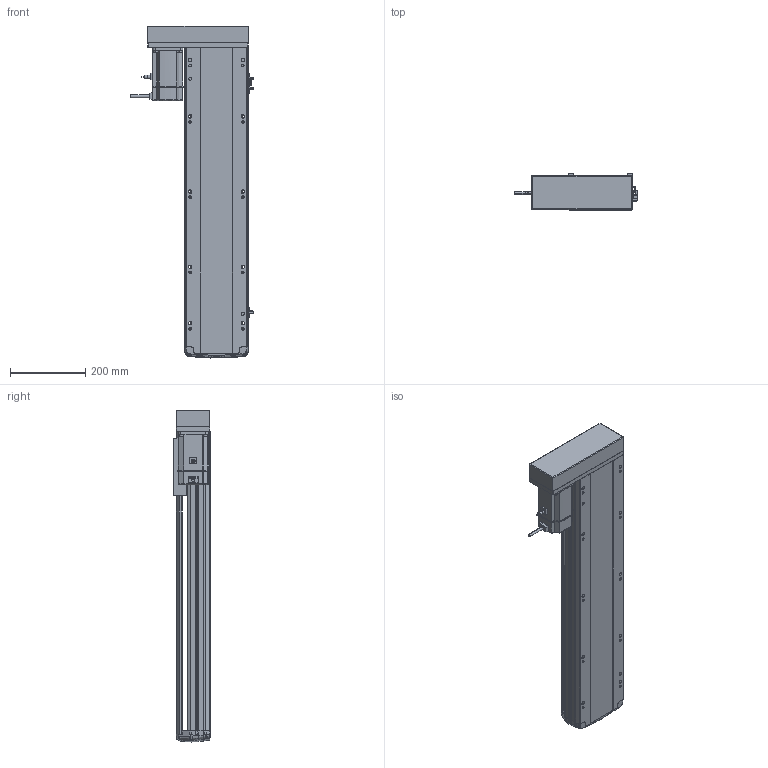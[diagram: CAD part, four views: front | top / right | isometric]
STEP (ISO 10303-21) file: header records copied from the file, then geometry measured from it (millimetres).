
FILE_DESCRIPTION (( 'STEP AP214' ), '1' );
FILE_NAME ('RTH17-XX-600-R-M75-C4.STEP', '2025-10-24T10:16:29', ( '' ), ( '' ), 'SwSTEP 2.0', 'SolidWorks 2018', '' );
FILE_SCHEMA (( 'AUTOMOTIVE_DESIGN' ));
Length unit declared in the file: millimetre
Products named in the file (10): N_RTH-L-012 感应片(外置)^RTH17-XX-XX-R-M75-C4（方程式）; N_RTH17-L-008-P75电机安装板左转折^RTH17-XX-XX-R-M75-C4（方程式）; N_M75^RTH17-XX-XX-R-M75-C4（方程式）; RTH17-XX-600-R-M75-C4; N_RTH17-M-007上盖^RTH17-XX-XX-R-M75-C4（方程式）; N_RTH17-M-011底座^RTH17-XX-XX-R-M75-C4（方程式）; N_OMRON EE-SX672 換覜ん^RTH17-XX-XX-R-M75-C4ㄗ源最宒ㄘ; N_RTH17-E-004丝杆螺母连接座^RTH17-XX-XX-R-M75-C4（方程式）; N_RTH17-L-018盖子^RTH17-XX-XX-R-M75-C4（方程式）; N_RTH17-GY-001P^RTH17-XX-XX-R-M75-C4（方程式）
Assembly tree (11 placements, depth 2):
  RTH17-XX-600-R-M75-C4
    N_RTH17-M-011底座^RTH17-XX-XX-R-M75-C4（方程式）
    N_RTH17-M-007上盖^RTH17-XX-XX-R-M75-C4（方程式）
    N_M75^RTH17-XX-XX-R-M75-C4（方程式）
    N_OMRON EE-SX672 換覜ん^RTH17-XX-XX-R-M75-C4ㄗ源最宒ㄘ  x3
    N_RTH-L-012 感应片(外置)^RTH17-XX-XX-R-M75-C4（方程式）
    N_RTH17-L-008-P75电机安装板左转折^RTH17-XX-XX-R-M75-C4（方程式）
    N_RTH17-L-018盖子^RTH17-XX-XX-R-M75-C4（方程式）
    N_RTH17-E-004丝杆螺母连接座^RTH17-XX-XX-R-M75-C4（方程式）
    N_RTH17-GY-001P^RTH17-XX-XX-R-M75-C4（方程式）
Bounding box: 326.2 x 97 x 882.99 mm (x, y, z)
Volume: 8487684.3 mm3; surface area: 1064893.5 mm2
Topology: 13 solids, 15 shells, 1741 faces, 4781 edges, 3094 vertices
Faces by surface type: plane 831, cylinder 496, bspline 377, cone 28, torus 9
Entity records: 50545 total; most frequent: CARTESIAN_POINT 20241, ORIENTED_EDGE 6586, DIRECTION 5473, EDGE_CURVE 3297, VERTEX_POINT 2130, AXIS2_PLACEMENT_3D 1837, VECTOR 1799, LINE 1799
